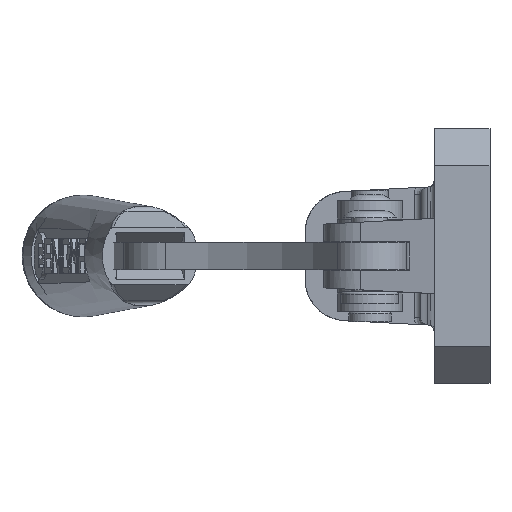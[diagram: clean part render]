
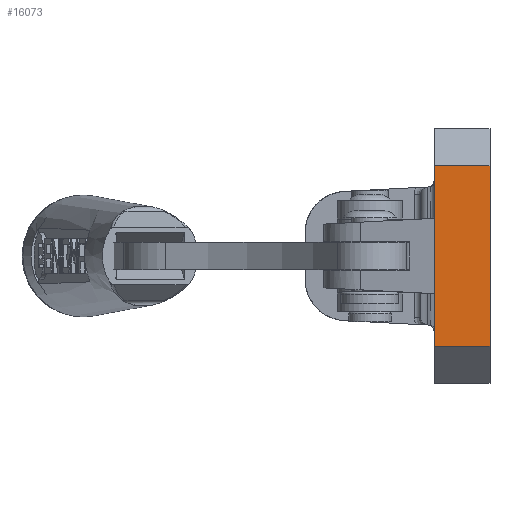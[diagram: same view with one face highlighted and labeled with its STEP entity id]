
A CAD part, left-side view. The second image highlights one B-rep face of the part: STEP entity #16073.
In plain terms, the highlighted planar face has unit normal (-1, 0, 0).
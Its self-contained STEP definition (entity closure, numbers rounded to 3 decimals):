
#1795 = DIRECTION ( 'NONE',  ( 0., 0., 1. ) ) ;
#2217 = CARTESIAN_POINT ( 'NONE',  ( -66., 0., -27.5 ) ) ;
#3380 = EDGE_CURVE ( 'NONE', #12672, #27321, #5094, .T. ) ;
#3767 = CARTESIAN_POINT ( 'NONE',  ( -66., 12., 19.5 ) ) ;
#3905 = VECTOR ( 'NONE', #11862, 1000. ) ;
#5094 = LINE ( 'NONE', #29461, #21187 ) ;
#6109 = CARTESIAN_POINT ( 'NONE',  ( -66., 0., -19.5 ) ) ;
#6454 = VECTOR ( 'NONE', #11004, 1000. ) ;
#10951 = EDGE_CURVE ( 'NONE', #29637, #15552, #23876, .T. ) ;
#11004 = DIRECTION ( 'NONE',  ( 0., 0., 1. ) ) ;
#11672 = DIRECTION ( 'NONE',  ( 0., 0., 1. ) ) ;
#11862 = DIRECTION ( 'NONE',  ( 0., 0., 1. ) ) ;
#12672 = VERTEX_POINT ( 'NONE', #23973 ) ;
#13776 = ORIENTED_EDGE ( 'NONE', *, *, #3380, .F. ) ;
#13883 = PLANE ( 'NONE',  #21622 ) ;
#14041 = LINE ( 'NONE', #26790, #32512 ) ;
#14560 = CARTESIAN_POINT ( 'NONE',  ( -66., 12., 8.15 ) ) ;
#15552 = VERTEX_POINT ( 'NONE', #3767 ) ;
#15566 = ORIENTED_EDGE ( 'NONE', *, *, #17167, .T. ) ;
#15742 = ORIENTED_EDGE ( 'NONE', *, *, #25610, .T. ) ;
#16073 = ADVANCED_FACE ( 'NONE', ( #26434 ), #13883, .F. ) ;
#16797 = CARTESIAN_POINT ( 'NONE',  ( -66., 12., -8.15 ) ) ;
#16909 = CARTESIAN_POINT ( 'NONE',  ( -66., 12., -8.15 ) ) ;
#17167 = EDGE_CURVE ( 'NONE', #21408, #15552, #14041, .T. ) ;
#20152 = LINE ( 'NONE', #16909, #33065 ) ;
#20608 = VECTOR ( 'NONE', #22872, 1000. ) ;
#20959 = EDGE_LOOP ( 'NONE', ( #34468, #15566, #32351, #35400, #13776, #15742 ) ) ;
#21187 = VECTOR ( 'NONE', #11672, 1000. ) ;
#21408 = VERTEX_POINT ( 'NONE', #24550 ) ;
#21622 = AXIS2_PLACEMENT_3D ( 'NONE', #26622, #23462, #23668 ) ;
#22872 = DIRECTION ( 'NONE',  ( 0., -1., 0. ) ) ;
#23462 = DIRECTION ( 'NONE',  ( 1., 0., 0. ) ) ;
#23668 = DIRECTION ( 'NONE',  ( 0., 0., -1. ) ) ;
#23876 = LINE ( 'NONE', #27043, #3905 ) ;
#23973 = CARTESIAN_POINT ( 'NONE',  ( -66., 12., -19.5 ) ) ;
#24273 = EDGE_CURVE ( 'NONE', #27928, #21408, #38288, .T. ) ;
#24550 = CARTESIAN_POINT ( 'NONE',  ( -66., 0., 19.5 ) ) ;
#25610 = EDGE_CURVE ( 'NONE', #12672, #27928, #26051, .T. ) ;
#26051 = LINE ( 'NONE', #34580, #20608 ) ;
#26434 = FACE_OUTER_BOUND ( 'NONE', #20959, .T. ) ;
#26622 = CARTESIAN_POINT ( 'NONE',  ( -66., 12., -27.5 ) ) ;
#26790 = CARTESIAN_POINT ( 'NONE',  ( -66., 12., 19.5 ) ) ;
#27043 = CARTESIAN_POINT ( 'NONE',  ( -66., 12., -27.5 ) ) ;
#27321 = VERTEX_POINT ( 'NONE', #16797 ) ;
#27928 = VERTEX_POINT ( 'NONE', #6109 ) ;
#29461 = CARTESIAN_POINT ( 'NONE',  ( -66., 12., -27.5 ) ) ;
#29637 = VERTEX_POINT ( 'NONE', #14560 ) ;
#32019 = EDGE_CURVE ( 'NONE', #27321, #29637, #20152, .T. ) ;
#32351 = ORIENTED_EDGE ( 'NONE', *, *, #10951, .F. ) ;
#32512 = VECTOR ( 'NONE', #32971, 1000. ) ;
#32971 = DIRECTION ( 'NONE',  ( 0., 1., 0. ) ) ;
#33065 = VECTOR ( 'NONE', #1795, 1000. ) ;
#34468 = ORIENTED_EDGE ( 'NONE', *, *, #24273, .T. ) ;
#34580 = CARTESIAN_POINT ( 'NONE',  ( -66., 12., -19.5 ) ) ;
#35400 = ORIENTED_EDGE ( 'NONE', *, *, #32019, .F. ) ;
#38288 = LINE ( 'NONE', #2217, #6454 ) ;
